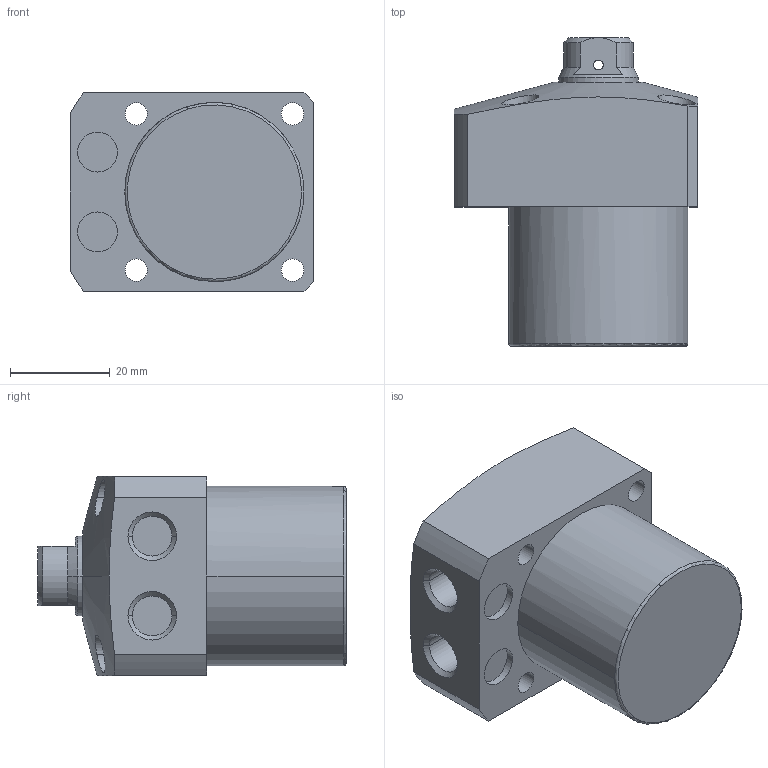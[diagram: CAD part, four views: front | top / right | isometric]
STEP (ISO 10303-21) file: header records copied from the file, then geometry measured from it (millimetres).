
FILE_DESCRIPTION((' '),'2;1');
FILE_NAME( 'TLL-036CB-020.STEP.stp', '2025-10-24T16:39:38', (' '), ('--- Datakit www.datakit.com---'), ' Datakit CrossCadWare V2024.1 Dec 21 2023', 'Mastercam 2025', ' ');
FILE_SCHEMA(('AUTOMOTIVE_DESIGN { 1 0 10303 214 1 1 1 1 }'));
Length unit declared in the file: millimetre
Products named in the file (1): TLL-036CB-020
Bounding box: 49 x 62 x 40 mm (x, y, z)
Volume: 69920.7 mm3; surface area: 13374.8 mm2
Topology: 1 solids, 1 shells, 76 faces, 227 edges, 162 vertices
Faces by surface type: cylinder 38, plane 22, cone 14, torus 2
Entity records: 5612 total; most frequent: CARTESIAN_POINT 3460, DIRECTION 454, ORIENTED_EDGE 450, EDGE_CURVE 225, AXIS2_PLACEMENT_3D 194, VERTEX_POINT 162, CIRCLE 117, EDGE_LOOP 99
